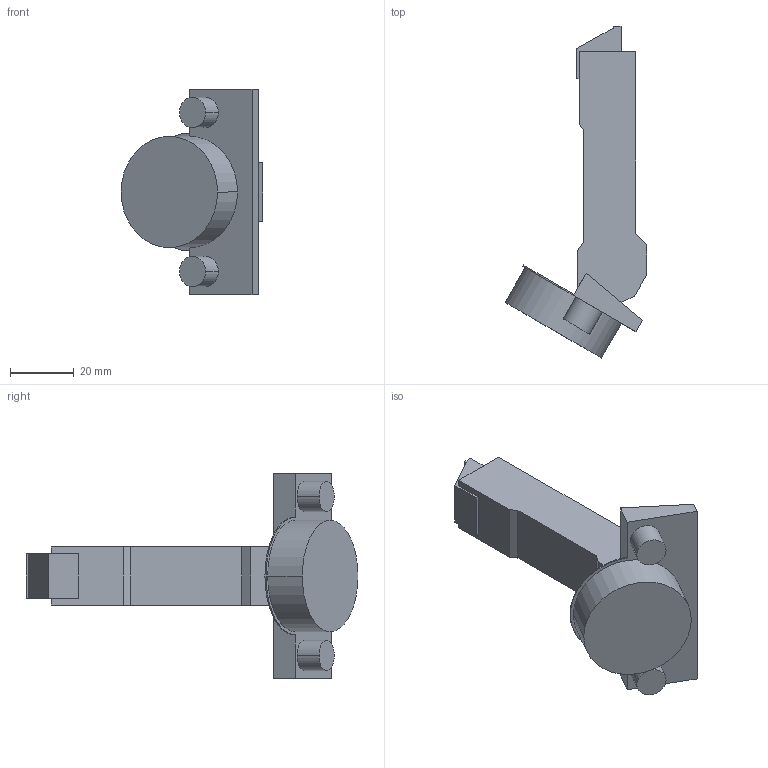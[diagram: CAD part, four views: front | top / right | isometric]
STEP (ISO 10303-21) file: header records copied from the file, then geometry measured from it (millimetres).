
FILE_DESCRIPTION (( 'STEP AP214' ), '1' );
FILE_NAME ('Scharnier T Impresso 110°_+30° HS_BB, aufliegend.step', '2010-12-13T10:20:57', ( 'grass' ), ( '' ), 'SwSTEP 2.0', 'SolidWorks 2010', '' );
FILE_SCHEMA (( 'AUTOMOTIVE_DESIGN' ));
Length unit declared in the file: millimetre
Products named in the file (1): Scharnier T Impresso 110°_+30° HS_BB, aufliegend
Bounding box: 44.59 x 104.36 x 64.5 mm (x, y, z)
Volume: 47467.6 mm3; surface area: 13016.2 mm2
Topology: 1 solids, 3 shells, 58 faces, 138 edges, 92 vertices
Faces by surface type: plane 41, cylinder 17
Entity records: 1706 total; most frequent: DIRECTION 290, CARTESIAN_POINT 289, ORIENTED_EDGE 276, EDGE_CURVE 138, LINE 104, VECTOR 104, AXIS2_PLACEMENT_3D 93, VERTEX_POINT 92
